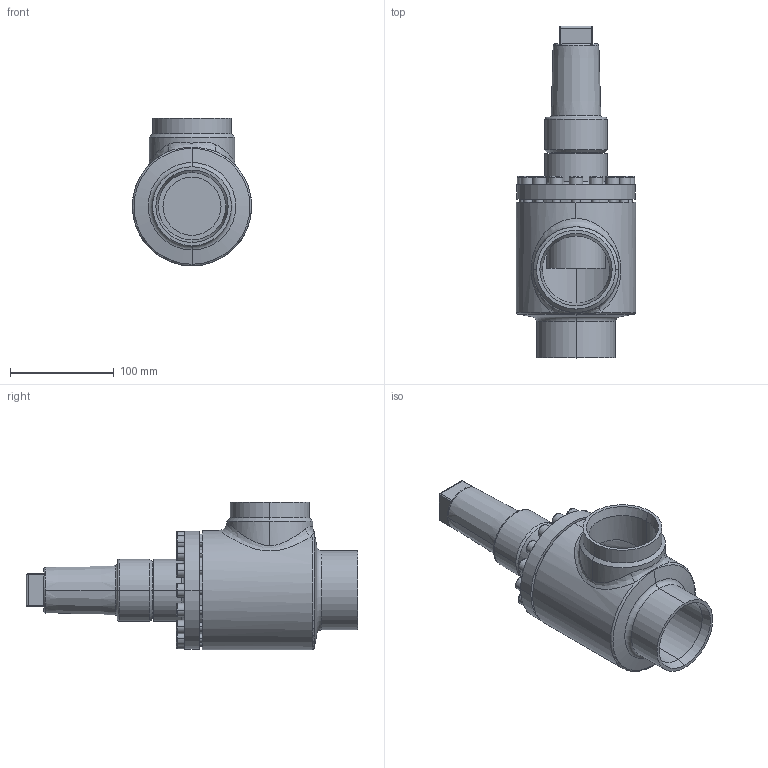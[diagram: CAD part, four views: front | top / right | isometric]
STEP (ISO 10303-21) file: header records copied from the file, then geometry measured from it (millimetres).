
FILE_DESCRIPTION (( 'STEP AP214' ), '1' );
FILE_NAME ('RVA29400D17-DN065_R1_PS40.STEP', '2006-04-28T05:40:48', ( 'Herr Grams' ), ( 'AWP GmbH' ), 'SwSTEP 2.0', 'SolidWorks 2002296', '' );
FILE_SCHEMA (( 'AUTOMOTIVE_DESIGN' ));
Length unit declared in the file: millimetre
Products named in the file (6): RVA29400D17-DN065_R1_PS40; RVA29300K17_Deck+Schr-DN065_Standard; Deckel29300K17-DN65_Standard; Zylinderschraube-DIN912_M 8x 25; Gehäuse16400-DN065_Standard; Kappe16402_DN040-65_Standard
Assembly tree (20 placements, depth 3):
  RVA29400D17-DN065_R1_PS40
    RVA29300K17_Deck+Schr-DN065_Standard
      Zylinderschraube-DIN912_M 8x 25  x16
      Deckel29300K17-DN65_Standard
    Gehäuse16400-DN065_Standard
    Kappe16402_DN040-65_Standard
Bounding box: 115 x 320 x 142.5 mm (x, y, z)
Volume: 1079358.6 mm3; surface area: 217619.1 mm2
Topology: 19 solids, 19 shells, 439 faces, 970 edges, 614 vertices
Faces by surface type: plane 190, cylinder 150, cone 50, torus 47, bspline 2
Entity records: 16006 total; most frequent: CARTESIAN_POINT 11352, DIRECTION 956, ORIENTED_EDGE 800, AXIS2_PLACEMENT_3D 407, EDGE_CURVE 400, VERTEX_POINT 254, EDGE_LOOP 220, CIRCLE 216
